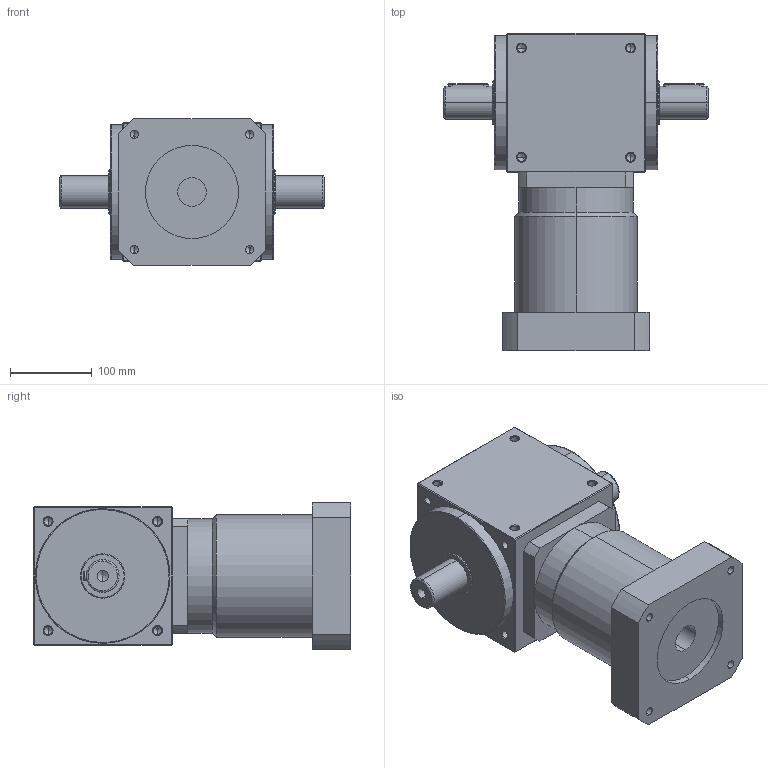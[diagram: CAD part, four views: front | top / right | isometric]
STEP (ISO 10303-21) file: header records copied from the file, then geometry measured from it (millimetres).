
FILE_DESCRIPTION (( 'STEP AP214' ), '1' );
FILE_NAME ('AT170-FL-L2--35-114.STEP', '2020-11-20T02:26:11', ( '微软用户' ), ( '微软中国' ), 'SwSTEP 2.0', 'SolidWorks 2014', '' );
FILE_SCHEMA (( 'AUTOMOTIVE_DESIGN' ));
Length unit declared in the file: millimetre
Products named in the file (2): AT170-FL-L2--35-114
Bounding box: 324 x 389 x 180 mm (x, y, z)
Volume: 9991552.5 mm3; surface area: 379567.7 mm2
Topology: 1 solids, 1 shells, 292 faces, 730 edges, 402 vertices
Faces by surface type: cylinder 124, cone 102, plane 58, bspline 8
Entity records: 11715 total; most frequent: CARTESIAN_POINT 2026, DIRECTION 1358, ORIENTED_EDGE 1356, EDGE_CURVE 678, AXIS2_PLACEMENT_3D 518, VERTEX_POINT 402, EDGE_LOOP 330, LINE 322
